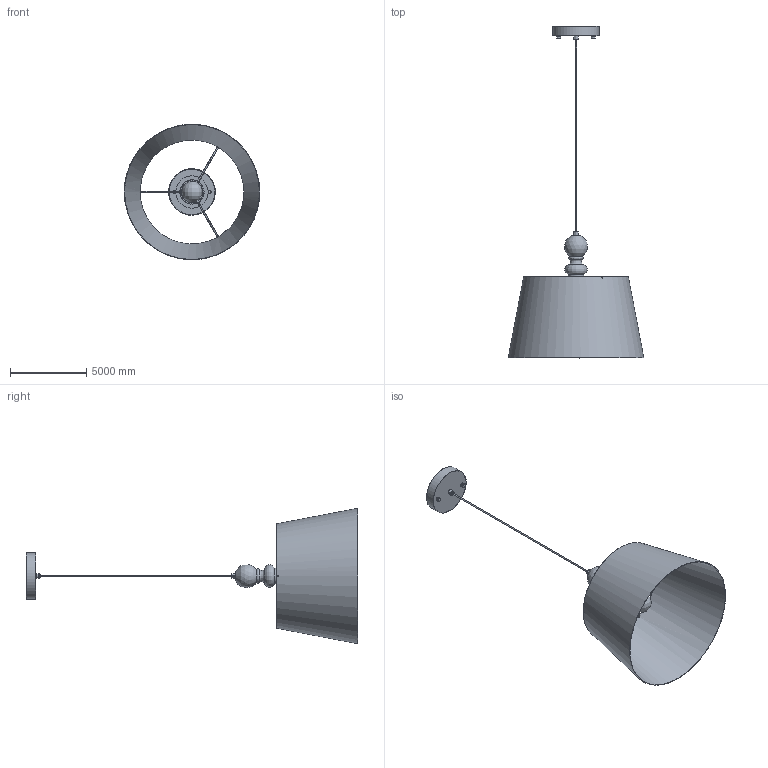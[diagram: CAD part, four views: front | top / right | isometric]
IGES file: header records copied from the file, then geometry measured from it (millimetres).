
Global section: file name: Beatrice Pendant Light; native system: AutoCAD 2022 - 简体中文 (Simplified Chinese),62HAuto; preprocessor: desk Translation Framework DWG producer (atf_dwg_producer); organization: unknown; date: 20260511.174138; units: inch
Bounding box: 8890 x 21774.99 x 8876.8 mm (x, y, z)
Volume: 10675283503.5 mm3; surface area: 351055702.5 mm2
Topology: 14 solids, 14 shells, 105 faces, 248 edges, 181 vertices
Faces by surface type: bspline 105
